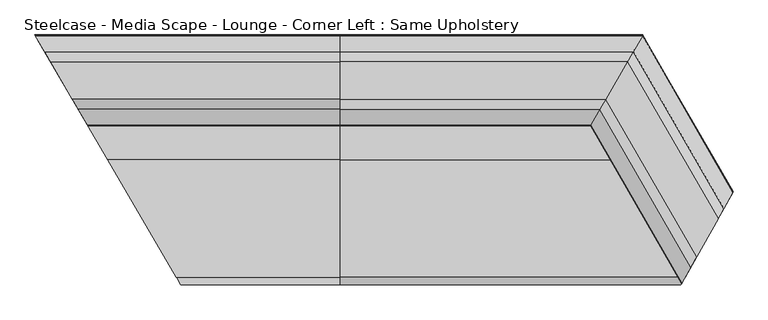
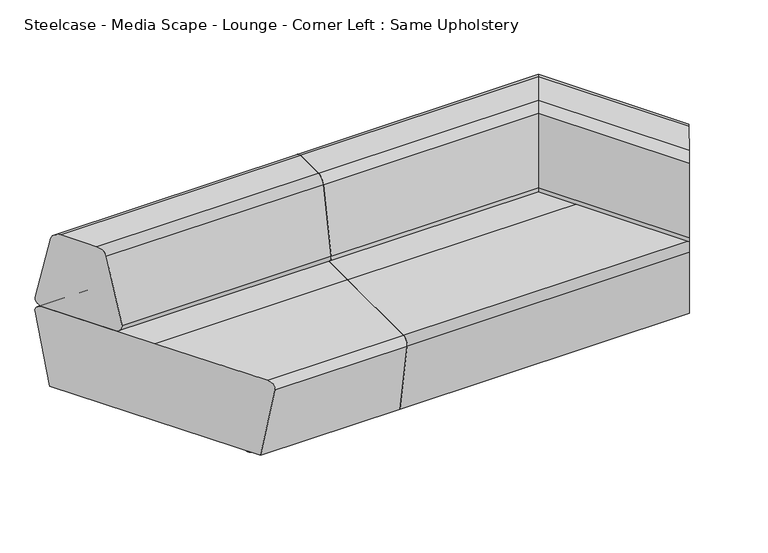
"""IFC4 building model written with IfcOpenShell, lengths in millimetres: furniture geometry, Steelcase - Media Scape - Lounge - Corner Left : Same Upholstery."""

from ifc_helpers import new_model, si_unit, point, frame, origin, place, context, project, spatial, polyline, circle_curve, ellipse_curve, trimmed, source, transform, mapped, element, save
from ifc_brep_helpers import plane_surface, cylinder_surface, revolved_surface, advanced_brep


def steelcase_media_scape_lounge_corner_left_same_upholstery_da140575(model_context):
    return source(origin(), model_context, "Body", "AdvancedBrep", [
        advanced_brep(
        [(532.4537919, 744.618392, 735.1171206), (532.4537919, 778.0460766, 707.6422134), (532.4537919, 831.9045354, 434.7626426), (532.4537919, 806.9852663, 404.4443065), (532.4537919, 556.7014693, 404.4443065), (532.4537919, 531.7822003, 434.7626426), (532.4537919, 585.640659, 707.6422134), (532.4537919, 619.0683436, 735.1171206), (1418.8221421, 619.0683436, 735.1171206), (1491.3054994, 744.618392, 735.1171206), (1399.5234573, 585.640659, 707.6422134), (1368.4295472, 531.7822003, 434.7626426), (1382.8160991, 556.7014693, 404.4443065), (1527.3115423, 806.9852663, 404.4443065), (1541.6980942, 831.9045354, 434.7626426), (1510.6041842, 778.0460766, 707.6422134)],
        [
            (0, 1, circle_curve(frame((532.4537919, 744.618392, 701.0445646), z_axis=(-1.0, 0.0, 0.0), x_axis=(0.0, 1.0, 0.0)), 34.0725559)),
            (1, 2),
            (2, 3, circle_curve(frame((532.4537919, 806.9852663, 429.8443065), z_axis=(-1.0, 0.0, 0.0), x_axis=(0.0, 1.0, 0.0)), 25.4)),
            (3, 4),
            (4, 5, circle_curve(frame((532.4537919, 556.7014693, 429.8443065), z_axis=(-1.0, 0.0, 0.0), x_axis=(0.0, -1.0, 0.0)), 25.4)),
            (5, 6),
            (6, 7, circle_curve(frame((532.4537919, 619.0683436, 701.0445646), z_axis=(-1.0, 0.0, 0.0), x_axis=(0.0, -1.0, 0.0)), 34.0725559)),
            (7, 0),
            (7, 8),
            (8, 9),
            (9, 0),
            (6, 10),
            (10, 8, ellipse_curve(frame((1418.8221421, 619.0683436, 701.0445646), z_axis=(-0.8660343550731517, 0.4999844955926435, 0.0), x_axis=(0.4999844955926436, 0.8660343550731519, 0.0)), 39.343192, 34.0725559)),
            (5, 11),
            (11, 10),
            (4, 12),
            (12, 11, ellipse_curve(frame((1382.8160991, 556.7014693, 429.8443065), z_axis=(-0.8660343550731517, 0.4999844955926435, 0.0), x_axis=(0.4999844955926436, 0.8660343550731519, 0.0)), 29.3290905, 25.4)),
            (3, 13),
            (13, 12),
            (2, 14),
            (14, 13, ellipse_curve(frame((1527.3115423, 806.9852663, 429.8443065), z_axis=(-0.8660343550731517, 0.4999844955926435, 0.0), x_axis=(0.4999844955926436, 0.8660343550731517, 0.0)), 29.3290905, 25.4)),
            (1, 15),
            (15, 14),
            (9, 15, ellipse_curve(frame((1491.3054994, 744.618392, 701.0445646), z_axis=(-0.8660343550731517, 0.4999844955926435, 0.0), x_axis=(0.4999844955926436, 0.8660343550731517, 0.0)), 39.343192, 34.0725559)),
        ],
        [
            plane_surface(frame((532.4537919, 567.2050656, 735.1171206), z_axis=(-1.0, 0.0, 0.0), x_axis=(0.0, 1.0, 0.0))),
            plane_surface(frame((1559.1761623, 744.618392, 735.1171206), z_axis=(0.0, 0.0, 1.0), x_axis=(-1.0, 0.0, 0.0))),
            cylinder_surface(frame((532.4537919, 619.0683436, 701.0445646), z_axis=(1.0, 0.0, 0.0), x_axis=(0.0, -1.0, 0.0)), 34.0725559),
            plane_surface(frame((1559.1761623, 585.640659, 707.6422134), z_axis=(0.0, -0.9810735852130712, 0.19363527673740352), x_axis=(-1.0, 0.0, 0.0))),
            cylinder_surface(frame((532.4537919, 556.7014693, 429.8443065), z_axis=(1.0, 0.0, 0.0), x_axis=(0.0, -1.0, 0.0)), 25.4),
            plane_surface(frame((1559.1761623, 556.7014693, 404.4443065), z_axis=(0.0, 0.0, -1.0), x_axis=(-1.0, 0.0, 0.0))),
            cylinder_surface(frame((532.4537919, 806.9852663, 429.8443065), z_axis=(1.0, 0.0, 0.0), x_axis=(0.0, 1.0, 0.0)), 25.4),
            plane_surface(frame((1559.1761623, 831.9045354, 434.7626426), z_axis=(0.0, 0.9810735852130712, 0.19363527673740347), x_axis=(-1.0, 0.0, 0.0))),
            cylinder_surface(frame((532.4537919, 744.618392, 701.0445646), z_axis=(1.0, 0.0, 0.0), x_axis=(0.0, 1.0, 0.0)), 34.0725559),
            plane_surface(frame((1578.9048197, 896.3511388, 783.4745435), z_axis=(0.8660343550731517, -0.4999844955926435, 0.0), x_axis=(0.0, 0.0, -1.0))),
        ],
        [
            (0, [[1, 2, 3, 4, 5, 6, 7, 8]]),
            (1, [[-8, 9, 10, 11]]),
            (2, [[-7, 12, 13, -9]]),
            (3, [[-6, 14, 15, -12]]),
            (4, [[-5, 16, 17, -14]]),
            (5, [[-4, 18, 19, -16]]),
            (6, [[-3, 20, 21, -18]]),
            (7, [[-2, 22, 23, -20]]),
            (8, [[-1, -11, 24, -22]]),
            (9, [[-10, -13, -15, -17, -19, -21, -23, -24]]),
        ],
    ),
        advanced_brep(
        [(1722.2214947, 92.6705237, 735.1171206), (1793.7915094, 219.9022306, 735.1171206), (1491.2979737, 744.6053565, 735.1171206), (1418.7865261, 619.0066524, 735.1171206), (1703.1659873, 58.7950977, 707.6422134), (1399.4803623, 585.5660131, 707.6422134), (1672.4638829, 4.2152411, 434.7626426), (1368.3744021, 531.686682, 434.7626426), (1686.6691539, 29.468287, 404.4443065), (1382.7665293, 556.6156083, 404.4443065), (1829.3438503, 283.1044672, 404.4443065), (1527.3179704, 806.9964005, 404.4443065), (1843.5491212, 308.3575131, 434.7626426), (1541.7100977, 831.9253268, 434.7626426), (1812.8470169, 253.7776565, 707.6422134), (1510.6041375, 778.0459957, 707.6422134)],
        [
            (0, 1),
            (1, 2),
            (2, 3),
            (3, 0),
            (4, 0, ellipse_curve(frame((1722.2214947, 92.6705237, 701.0445646), z_axis=(-0.8715691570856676, 0.4902725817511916, 0.0), x_axis=(-0.4902725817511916, -0.8715691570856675, 0.0)), 39.6169766, 34.0725559)),
            (3, 5, ellipse_curve(frame((1418.7865261, 619.0066524, 701.0445646), z_axis=(0.8660343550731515, -0.499984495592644, 0.0), x_axis=(-0.49998449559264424, -0.8660343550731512, 0.0)), 39.3584391, 34.0725559)),
            (5, 4),
            (6, 4),
            (5, 7),
            (7, 6),
            (8, 6, ellipse_curve(frame((1686.6691539, 29.468287, 429.8443065), z_axis=(-0.8715691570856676, 0.4902725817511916, 0.0), x_axis=(-0.4902725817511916, -0.8715691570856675, 0.0)), 29.5331882, 25.4)),
            (7, 9, ellipse_curve(frame((1382.7665293, 556.6156083, 429.8443065), z_axis=(0.8660343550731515, -0.499984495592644, 0.0), x_axis=(-0.49998449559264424, -0.8660343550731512, 0.0)), 29.3404568, 25.4)),
            (9, 8),
            (10, 8),
            (9, 11),
            (11, 10),
            (12, 10, ellipse_curve(frame((1829.3438503, 283.1044672, 429.8443065), z_axis=(-0.8715691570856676, 0.4902725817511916, 0.0), x_axis=(-0.49027258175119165, -0.8715691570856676, 0.0)), 29.5331882, 25.4)),
            (11, 13, ellipse_curve(frame((1527.3179704, 806.9964005, 429.8443065), z_axis=(0.8660343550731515, -0.499984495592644, 0.0), x_axis=(-0.4999844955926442, -0.8660343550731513, 0.0)), 29.3404568, 25.4)),
            (13, 12),
            (14, 12),
            (13, 15),
            (15, 14),
            (1, 14, ellipse_curve(frame((1793.7915094, 219.9022306, 701.0445646), z_axis=(-0.8715691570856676, 0.4902725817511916, 0.0), x_axis=(-0.49027258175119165, -0.8715691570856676, 0.0)), 39.6169766, 34.0725559)),
            (15, 2, ellipse_curve(frame((1491.2979737, 744.6053565, 701.0445646), z_axis=(0.8660343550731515, -0.499984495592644, 0.0), x_axis=(-0.4999844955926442, -0.8660343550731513, 0.0)), 39.3584391, 34.0725559)),
        ],
        [
            plane_surface(frame((1867.9789373, 91.2172483, 735.1171206), z_axis=(0.0, 0.0, 1.0), x_axis=(-0.4994501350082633, 0.8663426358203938, 0.0))),
            cylinder_surface(frame((1327.8844408, 776.6847599, 701.0445646), z_axis=(0.4994501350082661, -0.8663426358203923, 0.0), x_axis=(-0.8663426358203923, -0.4994501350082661, 0.0)), 34.0725559),
            plane_surface(frame((1730.249749, 11.815798, 707.6422134), z_axis=(-0.849945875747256, -0.4899973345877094, 0.19363527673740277), x_axis=(-0.4994501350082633, 0.8663426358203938, 0.0))),
            cylinder_surface(frame((1273.8533586, 745.5356162, 429.8443065), z_axis=(0.4994501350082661, -0.8663426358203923, 0.0), x_axis=(-0.8663426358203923, -0.4994501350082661, 0.0)), 25.4),
            plane_surface(frame((1705.1784952, -2.6378841, 404.4443065), z_axis=(0.0, 0.0, -1.0000000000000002), x_axis=(-0.4994501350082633, 0.866342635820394, 0.0))),
            cylinder_surface(frame((1490.6848829, 870.5398923, 429.8443065), z_axis=(0.49945013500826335, -0.8663426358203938, 0.0), x_axis=(0.8663426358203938, 0.49945013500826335, 0.0)), 25.4),
            plane_surface(frame((1943.5986448, 134.8123243, 434.7626426), z_axis=(0.8499458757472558, 0.48999733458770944, 0.193635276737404), x_axis=(-0.49945013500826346, 0.8663426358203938, 0.0))),
            cylinder_surface(frame((1436.6538007, 839.3907486, 701.0445646), z_axis=(0.49945013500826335, -0.8663426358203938, 0.0), x_axis=(0.8663426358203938, 0.49945013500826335, 0.0)), 34.0725559),
            plane_surface(frame((1844.1308819, 309.391723, 783.4745435), z_axis=(0.8715691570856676, -0.4902725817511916, 0.0), x_axis=(0.0, 0.0, -1.0))),
            plane_surface(frame((1312.2130898, 434.4084138, 783.4745435), z_axis=(-0.8660343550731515, 0.499984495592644, 0.0), x_axis=(0.0, 0.0, -1.0))),
        ],
        [
            (0, [[1, 2, 3, 4]]),
            (1, [[5, -4, 6, 7]]),
            (2, [[8, -7, 9, 10]]),
            (3, [[11, -10, 12, 13]]),
            (4, [[14, -13, 15, 16]]),
            (5, [[17, -16, 18, 19]]),
            (6, [[20, -19, 21, 22]]),
            (7, [[23, -22, 24, -2]]),
            (8, [[-1, -5, -8, -11, -14, -17, -20, -23]]),
            (9, [[-3, -24, -21, -18, -15, -12, -9, -6]]),
        ],
    ),
        advanced_brep(
        [(532.4537919, 416.9525328, 404.4443065), (532.4537919, 808.4584998, 404.4443065), (532.4537919, 833.4999769, 374.7917281), (532.4537919, 782.5280351, 74.6414242), (532.4537919, 416.9525328, 74.6414242), (532.4537919, 51.3770305, 74.6414242), (532.4537919, 0.4050887, 374.7917281), (532.4537919, 25.4465658, 404.4443065), (1782.1216274, 416.9525328, 404.4443065), (1556.4168081, 808.4584998, 404.4443065), (1541.9802923, 833.4999769, 374.7917281), (1571.3658289, 782.5280351, 74.6414242), (1782.1216274, 416.9525328, 74.6414242), (1844.1308819, 309.391723, 74.6414242), (1698.9931974, 51.3770305, 74.6414242), (1670.3206069, 0.4050887, 374.7917281), (1684.4068668, 25.4465658, 404.4443065), (1844.1308819, 309.391723, 404.4443065)],
        [
            (0, 1),
            (1, 2, circle_curve(frame((532.4537919, 808.4584998, 379.0443065), z_axis=(-1.0, 0.0, 0.0), x_axis=(0.0, 1.0, 0.0)), 25.4)),
            (2, 3),
            (3, 4),
            (4, 5),
            (5, 6),
            (6, 7, circle_curve(frame((532.4537919, 25.4465658, 379.0443065), z_axis=(-1.0, 0.0, 0.0), x_axis=(0.0, -1.0, 0.0)), 25.4)),
            (7, 0),
            (0, 8),
            (8, 9),
            (9, 1),
            (9, 10, ellipse_curve(frame((1556.4168081, 808.4584998, 379.0443065), z_axis=(-0.8663426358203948, -0.4994501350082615, 0.0), x_axis=(-0.4994501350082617, 0.866342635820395, 0.0)), 29.318654, 25.4)),
            (10, 2),
            (10, 11),
            (11, 3),
            (11, 12),
            (12, 4),
            (12, 13),
            (13, 14),
            (14, 5),
            (14, 15),
            (15, 6),
            (15, 16, ellipse_curve(frame((1684.4068668, 25.4465658, 379.0443065), z_axis=(-0.8715691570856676, 0.4902725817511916, 0.0), x_axis=(-0.4902725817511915, -0.8715691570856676, 0.0)), 29.1428394, 25.4)),
            (16, 7),
            (16, 17),
            (17, 8),
            (13, 17),
        ],
        [
            plane_surface(frame((532.4537919, 891.4773142, 404.4443065), z_axis=(-1.0, 0.0, 0.0), x_axis=(0.0, 1.0, 0.0))),
            plane_surface(frame((532.4537919, 416.9525328, 404.4443065), z_axis=(0.0, 0.0, 1.0), x_axis=(1.0, 0.0, 0.0))),
            cylinder_surface(frame((1864.4893496, 808.4584998, 379.0443065), z_axis=(-1.0, 0.0, 0.0), x_axis=(0.0, 1.0, 0.0)), 25.4),
            plane_surface(frame((532.4537919, 833.4999769, 374.7917281), z_axis=(0.0, 0.9858849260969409, -0.1674243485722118), x_axis=(1.0, 0.0, 0.0))),
            plane_surface(frame((532.4537919, 782.5280351, 74.6414242), z_axis=(0.0, 0.0, -1.0), x_axis=(1.0, 0.0, 0.0))),
            plane_surface(frame((532.4537919, 416.9525328, 74.6414242), z_axis=(0.0, 0.0, -1.0), x_axis=(1.0, 0.0, 0.0))),
            plane_surface(frame((532.4537919, 51.3770305, 74.6414242), z_axis=(0.0, -0.9858849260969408, -0.16742434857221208), x_axis=(1.0, 0.0, 0.0))),
            cylinder_surface(frame((1864.4893496, 25.4465658, 379.0443065), z_axis=(-1.0, 0.0, 0.0), x_axis=(0.0, -1.0, 0.0)), 25.4),
            plane_surface(frame((532.4537919, 25.4465658, 404.4443065), z_axis=(0.0, 0.0, 1.0), x_axis=(1.0, 0.0, 0.0))),
            plane_surface(frame((1844.1308819, 309.391723, 783.4745435), z_axis=(0.8715691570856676, -0.4902725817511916, 0.0), x_axis=(0.0, 0.0, -1.0))),
            plane_surface(frame((1512.8100786, 884.0984212, 783.4745435), z_axis=(0.8663426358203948, 0.4994501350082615, 0.0), x_axis=(0.0, 0.0, -1.0))),
        ],
        [
            (0, [[1, 2, 3, 4, 5, 6, 7, 8]]),
            (1, [[-1, 9, 10, 11]]),
            (2, [[-2, -11, 12, 13]]),
            (3, [[-3, -13, 14, 15]]),
            (4, [[-4, -15, 16, 17]]),
            (5, [[-5, -17, 18, 19, 20]]),
            (6, [[-6, -20, 21, 22]]),
            (7, [[-7, -22, 23, 24]]),
            (8, [[-8, -24, 25, 26, -9]]),
            (9, [[27, -25, -23, -21, -19]]),
            (10, [[-27, -18, -16, -14, -12, -10, -26]]),
        ],
    ),
        advanced_brep(
        [(532.4537919, 744.618392, 735.1171206), (532.4537919, 619.0683436, 735.1171206), (532.4537919, 585.640659, 707.6422134), (532.4537919, 531.7822003, 434.7626426), (532.4537919, 556.7014693, 404.4443065), (532.4537919, 806.9852663, 404.4443065), (532.4537919, 831.9045354, 434.7626426), (532.4537919, 778.0460766, 707.6422134), (-454.4733629, 778.0460766, 707.6422134), (-434.947537, 744.618392, 735.1171206), (-485.9332412, 831.9045354, 434.7626426), (-471.3773629, 806.9852663, 404.4443065), (-325.1812412, 556.7014693, 404.4443065), (-310.6253629, 531.7822003, 434.7626426), (-342.0852412, 585.640659, 707.6422134), (-361.6110671, 619.0683436, 735.1171206)],
        [
            (0, 1),
            (1, 2, circle_curve(frame((532.4537919, 619.0683436, 701.0445646), z_axis=(1.0, 0.0, 0.0), x_axis=(0.0, -1.0, 0.0)), 34.0725559)),
            (2, 3),
            (3, 4, circle_curve(frame((532.4537919, 556.7014693, 429.8443065), z_axis=(1.0, 0.0, 0.0), x_axis=(0.0, -1.0, 0.0)), 25.4)),
            (4, 5),
            (5, 6, circle_curve(frame((532.4537919, 806.9852663, 429.8443065), z_axis=(1.0, 0.0, 0.0), x_axis=(0.0, 1.0, 0.0)), 25.4)),
            (6, 7),
            (7, 0, circle_curve(frame((532.4537919, 744.618392, 701.0445646), z_axis=(1.0, 0.0, 0.0), x_axis=(0.0, 1.0, 0.0)), 34.0725559)),
            (7, 8),
            (8, 9, ellipse_curve(frame((-434.947537, 744.618392, 701.0445646), z_axis=(0.8634825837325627, 0.5043786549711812, 0.0), x_axis=(-0.5043786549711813, 0.8634825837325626, 0.0)), 39.4594594, 34.0725559)),
            (9, 0),
            (6, 10),
            (10, 8),
            (5, 11),
            (11, 10, ellipse_curve(frame((-471.3773629, 806.9852663, 429.8443065), z_axis=(0.8634825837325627, 0.5043786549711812, 0.0), x_axis=(-0.5043786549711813, 0.8634825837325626, 0.0)), 29.4157641, 25.4)),
            (4, 12),
            (12, 11),
            (3, 13),
            (13, 12, ellipse_curve(frame((-325.1812412, 556.7014693, 429.8443065), z_axis=(0.8634825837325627, 0.5043786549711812, 0.0), x_axis=(-0.5043786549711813, 0.8634825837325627, 0.0)), 29.4157641, 25.4)),
            (2, 14),
            (14, 13),
            (1, 15),
            (15, 14, ellipse_curve(frame((-361.6110671, 619.0683436, 701.0445646), z_axis=(0.8634825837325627, 0.5043786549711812, 0.0), x_axis=(-0.5043786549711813, 0.8634825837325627, 0.0)), 39.4594594, 34.0725559)),
            (9, 15),
        ],
        [
            plane_surface(frame((532.4537919, 778.690948, 701.0445646), z_axis=(1.0, 0.0, 0.0), x_axis=(0.0, 0.0, 1.0))),
            cylinder_surface(frame((532.4537919, 744.618392, 701.0445646), z_axis=(-1.0, 0.0, 0.0), x_axis=(0.0, 1.0, 0.0)), 34.0725559),
            plane_surface(frame((-494.2685786, 778.0460766, 707.6422134), z_axis=(0.0, 0.9810735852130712, 0.19363527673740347), x_axis=(1.0, 0.0, 0.0))),
            cylinder_surface(frame((532.4537919, 806.9852663, 429.8443065), z_axis=(-1.0, 0.0, 0.0), x_axis=(0.0, 1.0, 0.0)), 25.4),
            plane_surface(frame((-494.2685786, 806.9852663, 404.4443065), z_axis=(0.0, 0.0, -1.0), x_axis=(1.0, 0.0, 0.0))),
            cylinder_surface(frame((532.4537919, 556.7014693, 429.8443065), z_axis=(-1.0, 0.0, 0.0), x_axis=(0.0, -1.0, 0.0)), 25.4),
            plane_surface(frame((-494.2685786, 531.7822003, 434.7626426), z_axis=(0.0, -0.9810735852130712, 0.19363527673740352), x_axis=(1.0, 0.0, 0.0))),
            cylinder_surface(frame((532.4537919, 619.0683436, 701.0445646), z_axis=(-1.0, 0.0, 0.0), x_axis=(0.0, -1.0, 0.0)), 34.0725559),
            plane_surface(frame((-494.2685786, 619.0683436, 735.1171206), z_axis=(0.0, 0.0, 1.0), x_axis=(1.0, 0.0, 0.0))),
            plane_surface(frame((43.2681632, -74.0739223, 775.7777302), z_axis=(-0.8634825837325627, -0.5043786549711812, 0.0), x_axis=(0.0, 0.0, -1.0))),
        ],
        [
            (0, [[1, 2, 3, 4, 5, 6, 7, 8]]),
            (1, [[-8, 9, 10, 11]]),
            (2, [[-7, 12, 13, -9]]),
            (3, [[-6, 14, 15, -12]]),
            (4, [[-5, 16, 17, -14]]),
            (5, [[-4, 18, 19, -16]]),
            (6, [[-3, 20, 21, -18]]),
            (7, [[-2, 22, 23, -20]]),
            (8, [[-1, -11, 24, -22]]),
            (9, [[-10, -13, -15, -17, -19, -21, -23, -24]]),
        ],
    ),
        advanced_brep(
        [(532.4537919, 416.9525328, 404.4443065), (532.4537919, 25.4465658, 404.4443065), (532.4537919, 0.4050887, 374.7917281), (532.4537919, 51.3770305, 74.6414242), (532.4537919, 416.9525328, 74.6414242), (532.4537919, 782.5280351, 74.6414242), (532.4537919, 833.4999769, 374.7917281), (532.4537919, 808.4584998, 404.4443065), (-243.5508969, 416.9525328, 404.4443065), (-14.8638836, 25.4465658, 404.4443065), (-0.236621, 0.4050887, 374.7917281), (-30.0104229, 51.3770305, 74.6414242), (-243.5508969, 416.9525328, 74.6414242), (-457.0913708, 782.5280351, 74.6414242), (-486.8651727, 833.4999769, 374.7917281), (-472.2379101, 808.4584998, 404.4443065)],
        [
            (0, 1),
            (1, 2, circle_curve(frame((532.4537919, 25.4465658, 379.0443065), z_axis=(1.0, 0.0, 0.0), x_axis=(0.0, -1.0, 0.0)), 25.4)),
            (2, 3),
            (3, 4),
            (4, 5),
            (5, 6),
            (6, 7, circle_curve(frame((532.4537919, 808.4584998, 379.0443065), z_axis=(1.0, 0.0, 0.0), x_axis=(0.0, 1.0, 0.0)), 25.4)),
            (7, 0),
            (0, 8),
            (8, 9),
            (9, 1),
            (9, 10, ellipse_curve(frame((-14.8638836, 25.4465658, 379.0443065), z_axis=(0.8634825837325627, 0.5043786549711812, 0.0), x_axis=(0.5043786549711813, -0.8634825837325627, 0.0)), 29.4157641, 25.4)),
            (10, 2),
            (10, 11),
            (11, 3),
            (11, 12),
            (12, 4),
            (12, 13),
            (13, 5),
            (13, 14),
            (14, 6),
            (14, 15, ellipse_curve(frame((-472.2379101, 808.4584998, 379.0443065), z_axis=(0.8634825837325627, 0.5043786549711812, 0.0), x_axis=(0.5043786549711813, -0.8634825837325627, 0.0)), 29.4157641, 25.4)),
            (15, 7),
            (15, 8),
        ],
        [
            plane_surface(frame((532.4537919, -57.5722485, 404.4443065), z_axis=(1.0, 0.0, 0.0), x_axis=(0.0, -1.0, 0.0))),
            plane_surface(frame((532.4537919, 416.9525328, 404.4443065), z_axis=(0.0, 0.0, 1.0), x_axis=(-1.0, 0.0, 0.0))),
            cylinder_surface(frame((-497.7585178, 25.4465658, 379.0443065), z_axis=(1.0, 0.0, 0.0), x_axis=(0.0, -1.0, 0.0)), 25.4),
            plane_surface(frame((532.4537919, 0.4050887, 374.7917281), z_axis=(0.0, -0.9858849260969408, -0.16742434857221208), x_axis=(-1.0, 0.0, 0.0))),
            plane_surface(frame((532.4537919, 51.3770305, 74.6414242), z_axis=(0.0, 0.0, -1.0), x_axis=(-1.0, 0.0, 0.0))),
            plane_surface(frame((532.4537919, 416.9525328, 74.6414242), z_axis=(0.0, 0.0, -1.0), x_axis=(-1.0, 0.0, 0.0))),
            plane_surface(frame((532.4537919, 782.5280351, 74.6414242), z_axis=(0.0, 0.9858849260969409, -0.1674243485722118), x_axis=(-1.0, 0.0, 0.0))),
            cylinder_surface(frame((-497.7585178, 808.4584998, 379.0443065), z_axis=(1.0, 0.0, 0.0), x_axis=(0.0, 1.0, 0.0)), 25.4),
            plane_surface(frame((532.4537919, 808.4584998, 404.4443065), z_axis=(0.0, 0.0, 1.0), x_axis=(-1.0, 0.0, 0.0))),
            plane_surface(frame((43.2681632, -74.0739223, 775.7777302), z_axis=(-0.8634825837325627, -0.5043786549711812, 0.0), x_axis=(0.0, 0.0, -1.0))),
        ],
        [
            (0, [[1, 2, 3, 4, 5, 6, 7, 8]]),
            (1, [[-1, 9, 10, 11]]),
            (2, [[-2, -11, 12, 13]]),
            (3, [[-3, -13, 14, 15]]),
            (4, [[-4, -15, 16, 17]]),
            (5, [[-5, -17, 18, 19]]),
            (6, [[-6, -19, 20, 21]]),
            (7, [[-7, -21, 22, 23]]),
            (8, [[-8, -23, 24, -9]]),
            (9, [[-10, -24, -22, -20, -18, -16, -14, -12]]),
        ],
    ),
        advanced_brep(
        [(21.7959658, 197.2230961, 74.1561731), (45.5828859, 197.2230961, 74.1561731), (-1.9909544, 197.2230961, 74.1561731), (-4.2576765, 197.2230961, 0.0), (47.849608, 197.2230961, 0.0), (21.7959658, 197.2230961, 0.0), (-4.2576765, 197.2230961, 6.3788302), (47.849608, 197.2230961, 6.3788302), (12.2709658, 197.2230961, 6.3788302), (31.3209658, 197.2230961, 6.3788302), (12.2709658, 197.2230961, 17.057519), (31.3209658, 197.2230961, 17.057519), (0.8408495, 197.2230961, 17.057519), (42.751082, 197.2230961, 17.057519)],
        [
            (0, 1),
            (1, 2, circle_curve(frame((21.7959658, 197.2230961, 74.1561731), z_axis=(0.0, 0.0, 1.0), x_axis=(1.0, 0.0, 0.0)), 23.7869202)),
            (2, 0),
            (2, 1, circle_curve(frame((21.7959658, 197.2230961, 74.1561731), z_axis=(0.0, 0.0, 1.0), x_axis=(1.0, 0.0, 0.0)), 23.7869202)),
            (3, 4, circle_curve(frame((21.7959658, 197.2230961, 0.0), z_axis=(0.0, 0.0, -1.0), x_axis=(1.0, 0.0, 0.0)), 26.0536423)),
            (4, 5),
            (5, 3),
            (4, 3, circle_curve(frame((21.7959658, 197.2230961, 0.0), z_axis=(0.0, 0.0, -1.0), x_axis=(1.0, 0.0, 0.0)), 26.0536423)),
            (3, 6, circle_curve(frame((-4.2576765, 197.2230961, 3.1894151), z_axis=(0.0, 1.0, 0.0), x_axis=(-1.0, 0.0, 0.0)), 3.1894151)),
            (6, 7, circle_curve(frame((21.7959658, 197.2230961, 6.3788302), z_axis=(0.0, 0.0, -1.0), x_axis=(1.0, 0.0, 0.0)), 26.0536423)),
            (7, 4, circle_curve(frame((47.849608, 197.2230961, 3.1894151), z_axis=(0.0, 1.0, 0.0), x_axis=(1.0, 0.0, 0.0)), 3.1894151)),
            (7, 6, circle_curve(frame((21.7959658, 197.2230961, 6.3788302), z_axis=(0.0, 0.0, -1.0), x_axis=(1.0, 0.0, 0.0)), 26.0536423)),
            (6, 8),
            (8, 9, circle_curve(frame((21.7959658, 197.2230961, 6.3788302), z_axis=(0.0, 0.0, -1.0), x_axis=(1.0, 0.0, 0.0)), 9.525)),
            (9, 7),
            (9, 8, circle_curve(frame((21.7959658, 197.2230961, 6.3788302), z_axis=(0.0, 0.0, -1.0), x_axis=(1.0, 0.0, 0.0)), 9.525)),
            (8, 10),
            (10, 11, circle_curve(frame((21.7959658, 197.2230961, 17.057519), z_axis=(0.0, 0.0, -1.0), x_axis=(1.0, 0.0, 0.0)), 9.525)),
            (11, 9),
            (11, 10, circle_curve(frame((21.7959658, 197.2230961, 17.057519), z_axis=(0.0, 0.0, -1.0), x_axis=(1.0, 0.0, 0.0)), 9.525)),
            (10, 12),
            (12, 13, circle_curve(frame((21.7959658, 197.2230961, 17.057519), z_axis=(0.0, 0.0, -1.0), x_axis=(1.0, 0.0, 0.0)), 20.9551163)),
            (13, 11),
            (13, 12, circle_curve(frame((21.7959658, 197.2230961, 17.057519), z_axis=(0.0, 0.0, -1.0), x_axis=(1.0, 0.0, 0.0)), 20.9551163)),
            (1, 13),
            (12, 2),
        ],
        [
            plane_surface(frame((21.7959658, 197.2230961, 74.1561731), z_axis=(0.0, 0.0, 1.0), x_axis=(1.0, 0.0, 0.0))),
            plane_surface(frame((21.7959658, 197.2230961, 0.0), z_axis=(0.0, 0.0, -1.0), x_axis=(1.0, 0.0, 0.0))),
            revolved_surface(trimmed(ellipse_curve(frame((47.849608, 197.2230961, 3.1894151), z_axis=(0.0, -1.0, 0.0), x_axis=(1.0, 0.0, 0.0)), 3.1894151, 3.1894151), [point((47.849608, 197.2230961, 0.0))], [point((47.849608, 197.2230961, 6.3788302))], True, "CARTESIAN"), (21.7959658, 197.2230961, 61.4561731), (0.0, 0.0, 1.0)),
            plane_surface(frame((21.7959658, 197.2230961, 6.3788302), z_axis=(0.0, 0.0, 1.0), x_axis=(1.0, 0.0, 0.0))),
            cylinder_surface(frame((21.7959658, 197.2230961, 61.4561731), z_axis=(0.0, 0.0, 1.0), x_axis=(1.0, 0.0, 0.0)), 9.525),
            plane_surface(frame((21.7959658, 197.2230961, 17.057519), z_axis=(0.0, 0.0, -1.0), x_axis=(1.0, 0.0, 0.0))),
            revolved_surface(polyline([(42.751082, 197.2230961, 17.057519), (45.5828859, 197.2230961, 74.1561731)]), (21.7959658, 197.2230961, 61.4561731), (0.0, 0.0, 1.0)),
        ],
        [
            (0, [[1, 2, 3]]),
            (0, [[-1, -3, 4]]),
            (1, [[5, 6, 7]]),
            (1, [[-6, 8, -7]]),
            (2, [[-5, 9, 10, 11]]),
            (2, [[-8, -11, 12, -9]]),
            (3, [[-10, 13, 14, 15]]),
            (3, [[-12, -15, 16, -13]]),
            (4, [[-14, 17, 18, 19]]),
            (4, [[-16, -19, 20, -17]]),
            (5, [[-18, 21, 22, 23]]),
            (5, [[-20, -23, 24, -21]]),
            (6, [[-2, 25, -22, 26]]),
            (6, [[-4, -26, -24, -25]]),
        ],
    ),
        advanced_brep(
        [(-250.7323456, 674.5792518, 74.1561731), (-226.9454254, 674.5792518, 74.1561731), (-274.5192657, 674.5792518, 74.1561731), (-276.7859878, 674.5792518, 0.0), (-224.6787033, 674.5792518, 0.0), (-250.7323456, 674.5792518, 0.0), (-276.7859878, 674.5792518, 6.3788302), (-224.6787033, 674.5792518, 6.3788302), (-260.2573456, 674.5792518, 6.3788302), (-241.2073456, 674.5792518, 6.3788302), (-260.2573456, 674.5792518, 17.057519), (-241.2073456, 674.5792518, 17.057519), (-271.6874618, 674.5792518, 17.057519), (-229.7772293, 674.5792518, 17.057519)],
        [
            (0, 1),
            (1, 2, circle_curve(frame((-250.7323456, 674.5792518, 74.1561731), z_axis=(0.0, 0.0, 1.0), x_axis=(1.0, 0.0, 0.0)), 23.7869202)),
            (2, 0),
            (2, 1, circle_curve(frame((-250.7323456, 674.5792518, 74.1561731), z_axis=(0.0, 0.0, 1.0), x_axis=(1.0, 0.0, 0.0)), 23.7869202)),
            (3, 4, circle_curve(frame((-250.7323456, 674.5792518, 0.0), z_axis=(0.0, 0.0, -1.0), x_axis=(1.0, 0.0, 0.0)), 26.0536423)),
            (4, 5),
            (5, 3),
            (4, 3, circle_curve(frame((-250.7323456, 674.5792518, 0.0), z_axis=(0.0, 0.0, -1.0), x_axis=(1.0, 0.0, 0.0)), 26.0536423)),
            (3, 6, circle_curve(frame((-276.7859878, 674.5792518, 3.1894151), z_axis=(0.0, 1.0, 0.0), x_axis=(-1.0, 0.0, 0.0)), 3.1894151)),
            (6, 7, circle_curve(frame((-250.7323456, 674.5792518, 6.3788302), z_axis=(0.0, 0.0, -1.0), x_axis=(1.0, 0.0, 0.0)), 26.0536423)),
            (7, 4, circle_curve(frame((-224.6787033, 674.5792518, 3.1894151), z_axis=(0.0, 1.0, 0.0), x_axis=(1.0, 0.0, 0.0)), 3.1894151)),
            (7, 6, circle_curve(frame((-250.7323456, 674.5792518, 6.3788302), z_axis=(0.0, 0.0, -1.0), x_axis=(1.0, 0.0, 0.0)), 26.0536423)),
            (6, 8),
            (8, 9, circle_curve(frame((-250.7323456, 674.5792518, 6.3788302), z_axis=(0.0, 0.0, -1.0), x_axis=(1.0, 0.0, 0.0)), 9.525)),
            (9, 7),
            (9, 8, circle_curve(frame((-250.7323456, 674.5792518, 6.3788302), z_axis=(0.0, 0.0, -1.0), x_axis=(1.0, 0.0, 0.0)), 9.525)),
            (8, 10),
            (10, 11, circle_curve(frame((-250.7323456, 674.5792518, 17.057519), z_axis=(0.0, 0.0, -1.0), x_axis=(1.0, 0.0, 0.0)), 9.525)),
            (11, 9),
            (11, 10, circle_curve(frame((-250.7323456, 674.5792518, 17.057519), z_axis=(0.0, 0.0, -1.0), x_axis=(1.0, 0.0, 0.0)), 9.525)),
            (10, 12),
            (12, 13, circle_curve(frame((-250.7323456, 674.5792518, 17.057519), z_axis=(0.0, 0.0, -1.0), x_axis=(1.0, 0.0, 0.0)), 20.9551163)),
            (13, 11),
            (13, 12, circle_curve(frame((-250.7323456, 674.5792518, 17.057519), z_axis=(0.0, 0.0, -1.0), x_axis=(1.0, 0.0, 0.0)), 20.9551163)),
            (1, 13),
            (12, 2),
        ],
        [
            plane_surface(frame((-250.7323456, 674.5792518, 74.1561731), z_axis=(0.0, 0.0, 1.0), x_axis=(1.0, 0.0, 0.0))),
            plane_surface(frame((-250.7323456, 674.5792518, 0.0), z_axis=(0.0, 0.0, -1.0), x_axis=(1.0, 0.0, 0.0))),
            revolved_surface(trimmed(ellipse_curve(frame((-224.6787033, 674.5792518, 3.1894151), z_axis=(0.0, -1.0, 0.0), x_axis=(1.0, 0.0, 0.0)), 3.1894151, 3.1894151), [point((-224.6787033, 674.5792518, 0.0))], [point((-224.6787033, 674.5792518, 6.3788302))], True, "CARTESIAN"), (-250.7323456, 674.5792518, 61.4561731), (0.0, 0.0, 1.0)),
            plane_surface(frame((-250.7323456, 674.5792518, 6.3788302), z_axis=(0.0, 0.0, 1.0), x_axis=(1.0, 0.0, 0.0))),
            cylinder_surface(frame((-250.7323456, 674.5792518, 61.4561731), z_axis=(0.0, 0.0, 1.0), x_axis=(1.0, 0.0, 0.0)), 9.525),
            plane_surface(frame((-250.7323456, 674.5792518, 17.057519), z_axis=(0.0, 0.0, -1.0), x_axis=(1.0, 0.0, 0.0))),
            revolved_surface(polyline([(-229.7772293, 674.5792518, 17.057519), (-226.9454254, 674.5792518, 74.1561731)]), (-250.7323456, 674.5792518, 61.4561731), (0.0, 0.0, 1.0)),
        ],
        [
            (0, [[1, 2, 3]]),
            (0, [[-1, -3, 4]]),
            (1, [[5, 6, 7]]),
            (1, [[-6, 8, -7]]),
            (2, [[-5, 9, 10, 11]]),
            (2, [[-8, -11, 12, -9]]),
            (3, [[-10, 13, 14, 15]]),
            (3, [[-12, -15, 16, -13]]),
            (4, [[-14, 17, 18, 19]]),
            (4, [[-16, -19, 20, -17]]),
            (5, [[-18, 21, 22, 23]]),
            (5, [[-20, -23, 24, -21]]),
            (6, [[-2, 25, -22, 26]]),
            (6, [[-4, -26, -24, -25]]),
        ],
    ),
        advanced_brep(
        [(1458.1502056, 674.3864683, 74.1561731), (1481.9371258, 674.3864683, 74.1561731), (1434.3632855, 674.3864683, 74.1561731), (1432.0965634, 674.3864683, 0.0), (1484.2038479, 674.3864683, 0.0), (1458.1502056, 674.3864683, 0.0), (1432.0965634, 674.3864683, 6.3788302), (1484.2038479, 674.3864683, 6.3788302), (1448.6252056, 674.3864683, 6.3788302), (1467.6752056, 674.3864683, 6.3788302), (1448.6252056, 674.3864683, 17.057519), (1467.6752056, 674.3864683, 17.057519), (1437.1950894, 674.3864683, 17.057519), (1479.1053219, 674.3864683, 17.057519)],
        [
            (0, 1),
            (1, 2, circle_curve(frame((1458.1502056, 674.3864683, 74.1561731), z_axis=(0.0, 0.0, 1.0), x_axis=(1.0, 0.0, 0.0)), 23.7869202)),
            (2, 0),
            (2, 1, circle_curve(frame((1458.1502056, 674.3864683, 74.1561731), z_axis=(0.0, 0.0, 1.0), x_axis=(1.0, 0.0, 0.0)), 23.7869202)),
            (3, 4, circle_curve(frame((1458.1502056, 674.3864683, 0.0), z_axis=(0.0, 0.0, -1.0), x_axis=(1.0, 0.0, 0.0)), 26.0536423)),
            (4, 5),
            (5, 3),
            (4, 3, circle_curve(frame((1458.1502056, 674.3864683, 0.0), z_axis=(0.0, 0.0, -1.0), x_axis=(1.0, 0.0, 0.0)), 26.0536423)),
            (6, 7, circle_curve(frame((1458.1502056, 674.3864683, 6.3788302), z_axis=(0.0, 0.0, -1.0), x_axis=(1.0, 0.0, 0.0)), 26.0536423)),
            (7, 4, circle_curve(frame((1484.2038479, 674.3864683, 3.1894151), z_axis=(0.0, 1.0, 0.0), x_axis=(1.0, 0.0, 0.0)), 3.1894151)),
            (3, 6, circle_curve(frame((1432.0965634, 674.3864683, 3.1894151), z_axis=(0.0, 1.0, 0.0), x_axis=(-1.0, 0.0, 0.0)), 3.1894151)),
            (7, 6, circle_curve(frame((1458.1502056, 674.3864683, 6.3788302), z_axis=(0.0, 0.0, -1.0), x_axis=(1.0, 0.0, 0.0)), 26.0536423)),
            (8, 9, circle_curve(frame((1458.1502056, 674.3864683, 6.3788302), z_axis=(0.0, 0.0, -1.0), x_axis=(1.0, 0.0, 0.0)), 9.525)),
            (9, 7),
            (6, 8),
            (9, 8, circle_curve(frame((1458.1502056, 674.3864683, 6.3788302), z_axis=(0.0, 0.0, -1.0), x_axis=(1.0, 0.0, 0.0)), 9.525)),
            (10, 11, circle_curve(frame((1458.1502056, 674.3864683, 17.057519), z_axis=(0.0, 0.0, -1.0), x_axis=(1.0, 0.0, 0.0)), 9.525)),
            (11, 9),
            (8, 10),
            (11, 10, circle_curve(frame((1458.1502056, 674.3864683, 17.057519), z_axis=(0.0, 0.0, -1.0), x_axis=(1.0, 0.0, 0.0)), 9.525)),
            (12, 13, circle_curve(frame((1458.1502056, 674.3864683, 17.057519), z_axis=(0.0, 0.0, -1.0), x_axis=(1.0, 0.0, 0.0)), 20.9551163)),
            (13, 11),
            (10, 12),
            (13, 12, circle_curve(frame((1458.1502056, 674.3864683, 17.057519), z_axis=(0.0, 0.0, -1.0), x_axis=(1.0, 0.0, 0.0)), 20.9551163)),
            (1, 13),
            (12, 2),
        ],
        [
            plane_surface(frame((1458.1502056, 674.3864683, 74.1561731), z_axis=(0.0, 0.0, 1.0), x_axis=(1.0, 0.0, 0.0))),
            plane_surface(frame((1458.1502056, 674.3864683, 0.0), z_axis=(0.0, 0.0, -1.0), x_axis=(1.0, 0.0, 0.0))),
            revolved_surface(trimmed(ellipse_curve(frame((1484.2038479, 674.3864683, 3.1894151), z_axis=(0.0, -1.0, 0.0), x_axis=(1.0, 0.0, 0.0)), 3.1894151, 3.1894151), [point((1484.2038479, 674.3864683, 0.0))], [point((1484.2038479, 674.3864683, 6.3788302))], True, "CARTESIAN"), (1458.1502056, 674.3864683, 61.4561731), (0.0, 0.0, 1.0)),
            plane_surface(frame((1458.1502056, 674.3864683, 6.3788302), z_axis=(0.0, 0.0, 1.0), x_axis=(1.0, 0.0, 0.0))),
            cylinder_surface(frame((1458.1502056, 674.3864683, 61.4561731), z_axis=(0.0, 0.0, 1.0), x_axis=(1.0, 0.0, 0.0)), 9.525),
            plane_surface(frame((1458.1502056, 674.3864683, 17.057519), z_axis=(0.0, 0.0, -1.0), x_axis=(1.0, 0.0, 0.0))),
            revolved_surface(polyline([(1479.1053219, 674.3864683, 17.057519), (1481.9371258, 674.3864683, 74.1561731)]), (1458.1502056, 674.3864683, 61.4561731), (0.0, 0.0, 1.0)),
        ],
        [
            (0, [[1, 2, 3]]),
            (0, [[-3, 4, -1]]),
            (1, [[5, 6, 7]]),
            (1, [[8, -7, -6]]),
            (2, [[9, 10, -5, 11]]),
            (2, [[12, -11, -8, -10]]),
            (3, [[13, 14, -9, 15]]),
            (3, [[16, -15, -12, -14]]),
            (4, [[17, 18, -13, 19]]),
            (4, [[20, -19, -16, -18]]),
            (5, [[21, 22, -17, 23]]),
            (5, [[24, -23, -20, -22]]),
            (6, [[-2, 25, -21, 26]]),
            (6, [[-4, -26, -24, -25]]),
        ],
    ),
        advanced_brep(
        [(1661.3592484, 197.151751, 74.1561731), (1685.1461686, 197.151751, 74.1561731), (1637.5723282, 197.151751, 74.1561731), (1635.3056061, 197.151751, 0.0), (1687.4128907, 197.151751, 0.0), (1661.3592484, 197.151751, 0.0), (1635.3056061, 197.151751, 6.3788302), (1687.4128907, 197.151751, 6.3788302), (1651.8342484, 197.151751, 6.3788302), (1670.8842484, 197.151751, 6.3788302), (1651.8342484, 197.151751, 17.057519), (1670.8842484, 197.151751, 17.057519), (1640.4041321, 197.151751, 17.057519), (1682.3143647, 197.151751, 17.057519)],
        [
            (0, 1),
            (1, 2, circle_curve(frame((1661.3592484, 197.151751, 74.1561731), z_axis=(0.0, 0.0, 1.0), x_axis=(1.0, 0.0, 0.0)), 23.7869202)),
            (2, 0),
            (2, 1, circle_curve(frame((1661.3592484, 197.151751, 74.1561731), z_axis=(0.0, 0.0, 1.0), x_axis=(1.0, 0.0, 0.0)), 23.7869202)),
            (3, 4, circle_curve(frame((1661.3592484, 197.151751, 0.0), z_axis=(0.0, 0.0, -1.0), x_axis=(1.0, 0.0, 0.0)), 26.0536423)),
            (4, 5),
            (5, 3),
            (4, 3, circle_curve(frame((1661.3592484, 197.151751, 0.0), z_axis=(0.0, 0.0, -1.0), x_axis=(1.0, 0.0, 0.0)), 26.0536423)),
            (6, 7, circle_curve(frame((1661.3592484, 197.151751, 6.3788302), z_axis=(0.0, 0.0, -1.0), x_axis=(1.0, 0.0, 0.0)), 26.0536423)),
            (7, 4, circle_curve(frame((1687.4128907, 197.151751, 3.1894151), z_axis=(0.0, 1.0, 0.0), x_axis=(1.0, 0.0, 0.0)), 3.1894151)),
            (3, 6, circle_curve(frame((1635.3056061, 197.151751, 3.1894151), z_axis=(0.0, 1.0, 0.0), x_axis=(-1.0, 0.0, 0.0)), 3.1894151)),
            (7, 6, circle_curve(frame((1661.3592484, 197.151751, 6.3788302), z_axis=(0.0, 0.0, -1.0), x_axis=(1.0, 0.0, 0.0)), 26.0536423)),
            (8, 9, circle_curve(frame((1661.3592484, 197.151751, 6.3788302), z_axis=(0.0, 0.0, -1.0), x_axis=(1.0, 0.0, 0.0)), 9.525)),
            (9, 7),
            (6, 8),
            (9, 8, circle_curve(frame((1661.3592484, 197.151751, 6.3788302), z_axis=(0.0, 0.0, -1.0), x_axis=(1.0, 0.0, 0.0)), 9.525)),
            (10, 11, circle_curve(frame((1661.3592484, 197.151751, 17.057519), z_axis=(0.0, 0.0, -1.0), x_axis=(1.0, 0.0, 0.0)), 9.525)),
            (11, 9),
            (8, 10),
            (11, 10, circle_curve(frame((1661.3592484, 197.151751, 17.057519), z_axis=(0.0, 0.0, -1.0), x_axis=(1.0, 0.0, 0.0)), 9.525)),
            (12, 13, circle_curve(frame((1661.3592484, 197.151751, 17.057519), z_axis=(0.0, 0.0, -1.0), x_axis=(1.0, 0.0, 0.0)), 20.9551163)),
            (13, 11),
            (10, 12),
            (13, 12, circle_curve(frame((1661.3592484, 197.151751, 17.057519), z_axis=(0.0, 0.0, -1.0), x_axis=(1.0, 0.0, 0.0)), 20.9551163)),
            (1, 13),
            (12, 2),
        ],
        [
            plane_surface(frame((1661.3592484, 197.151751, 74.1561731), z_axis=(0.0, 0.0, 1.0), x_axis=(1.0, 0.0, 0.0))),
            plane_surface(frame((1661.3592484, 197.151751, 0.0), z_axis=(0.0, 0.0, -1.0), x_axis=(1.0, 0.0, 0.0))),
            revolved_surface(trimmed(ellipse_curve(frame((1687.4128907, 197.151751, 3.1894151), z_axis=(0.0, -1.0, 0.0), x_axis=(1.0, 0.0, 0.0)), 3.1894151, 3.1894151), [point((1687.4128907, 197.151751, 0.0))], [point((1687.4128907, 197.151751, 6.3788302))], True, "CARTESIAN"), (1661.3592484, 197.151751, 61.4561731), (0.0, 0.0, 1.0)),
            plane_surface(frame((1661.3592484, 197.151751, 6.3788302), z_axis=(0.0, 0.0, 1.0), x_axis=(1.0, 0.0, 0.0))),
            cylinder_surface(frame((1661.3592484, 197.151751, 61.4561731), z_axis=(0.0, 0.0, 1.0), x_axis=(1.0, 0.0, 0.0)), 9.525),
            plane_surface(frame((1661.3592484, 197.151751, 17.057519), z_axis=(0.0, 0.0, -1.0), x_axis=(1.0, 0.0, 0.0))),
            revolved_surface(polyline([(1682.3143647, 197.151751, 17.057519), (1685.1461686, 197.151751, 74.1561731)]), (1661.3592484, 197.151751, 61.4561731), (0.0, 0.0, 1.0)),
        ],
        [
            (0, [[1, 2, 3]]),
            (0, [[-3, 4, -1]]),
            (1, [[5, 6, 7]]),
            (1, [[8, -7, -6]]),
            (2, [[9, 10, -5, 11]]),
            (2, [[12, -11, -8, -10]]),
            (3, [[13, 14, -9, 15]]),
            (3, [[16, -15, -12, -14]]),
            (4, [[17, 18, -13, 19]]),
            (4, [[20, -19, -16, -18]]),
            (5, [[21, 22, -17, 23]]),
            (5, [[24, -23, -20, -22]]),
            (6, [[-2, 25, -21, 26]]),
            (6, [[-4, -26, -24, -25]]),
        ],
    ),
    ])


if __name__ == "__main__":
    model = new_model("IFC4")
    model_context = context("Model", 3, world=origin())
    ifc_project = project(units=[si_unit("LENGTHUNIT", "METRE", prefix="MILLI")], contexts=[model_context])
    site = spatial("IfcSite", under=ifc_project)
    building = spatial("IfcBuilding", under=site)
    placement = place(None, origin())
    steelcase_media_scape_lounge_corner_left_same_upholstery_shape = steelcase_media_scape_lounge_corner_left_same_upholstery_da140575(model_context)
    element("IfcFurniture", 1, ObjectType="Steelcase - Media Scape - Lounge - Corner Left : Same Upholstery", at=placement, inside=building, context=model_context, shape_type="MappedRepresentation", body=[
        mapped(steelcase_media_scape_lounge_corner_left_same_upholstery_shape, transform((0.0, 0.0, 0.0), x_axis=(1.0, 0.0, 0.0), y_axis=(0.0, 1.0, 0.0), z_axis=(0.0, 0.0, 1.0))),
    ])
    save(model, "model.ifc")
